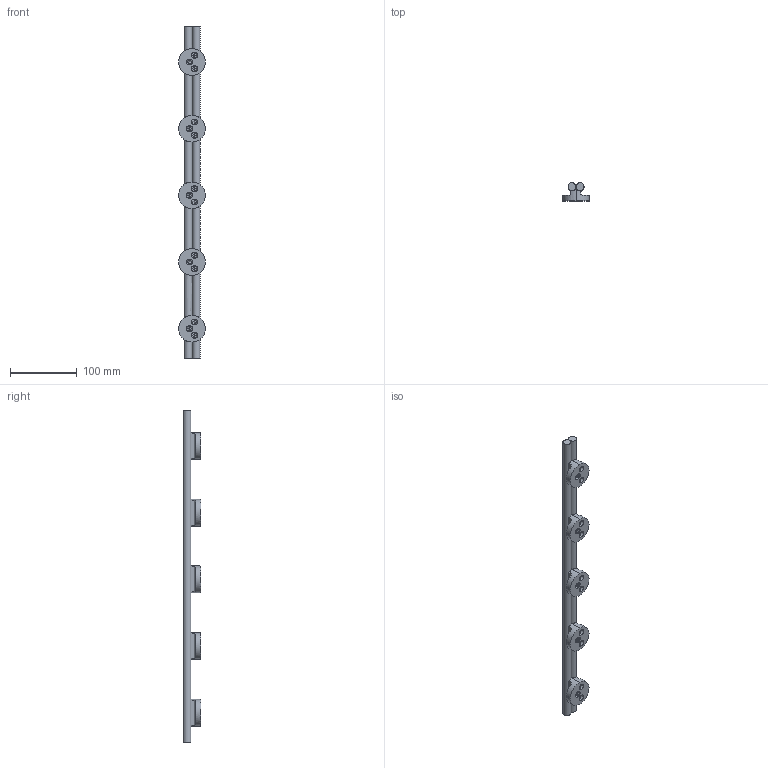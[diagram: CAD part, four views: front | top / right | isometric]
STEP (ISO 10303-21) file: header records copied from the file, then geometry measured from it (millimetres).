
FILE_DESCRIPTION (( 'STEP AP214' ), '1' );
FILE_NAME ('LF 1_-_LF 1 498 mm lang.step', '2005-06-03T05:52:44', ( ' ' ), ( ' ' ), 'SwSTEP 2.0', 'SolidWorks 2004231', '' );
FILE_SCHEMA (( 'AUTOMOTIVE_DESIGN' ));
Length unit declared in the file: millimetre
Products named in the file (1): LF 1_-_LF 1  498 mm lang
Bounding box: 40 x 27 x 498 mm (x, y, z)
Volume: 180933.6 mm3; surface area: 63395.7 mm2
Topology: 1 solids, 1 shells, 562 faces, 1390 edges, 840 vertices
Faces by surface type: plane 264, cylinder 218, cone 50, torus 30
Entity records: 17216 total; most frequent: CARTESIAN_POINT 4714, ORIENTED_EDGE 2680, DIRECTION 2417, EDGE_CURVE 1340, AXIS2_PLACEMENT_3D 859, VERTEX_POINT 840, VECTOR 699, LINE 699
